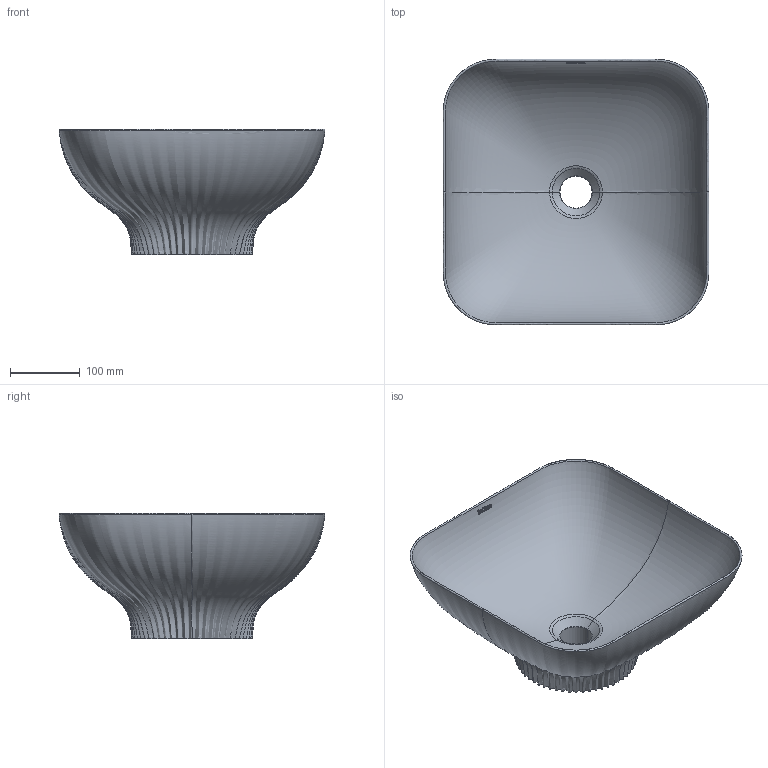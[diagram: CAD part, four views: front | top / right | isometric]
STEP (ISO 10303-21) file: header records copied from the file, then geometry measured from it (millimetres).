
FILE_DESCRIPTION(/* description */ (''),/* implementation_level */ '2;1');
FILE_NAME(/* name */ '6054_Cervino_Cuadrado',/* time_stamp */ '2024-10-15T14:54:28+02:00',/* author */ (''),/* organization */ (''),/* preprocessor_version */ 'ST-DEVELOPER v19.2',/* originating_system */ 'Rhino 8.11',/* authorisation */ '');
FILE_SCHEMA (('CONFIG_CONTROL_DESIGN'));
Products named in the file (1): Document
Bounding box: 380 x 380 x 180.17 mm (x, y, z)
Volume: 2387548.2 mm3; surface area: 483007.9 mm2
Topology: 7 solids, 7 shells, 98 faces, 221 edges, 136 vertices
Faces by surface type: bspline 61, plane 35, cylinder 2
Entity records: 975408 total; most frequent: CARTESIAN_POINT 973747, ORIENTED_EDGE 442, EDGE_CURVE 221, B_SPLINE_CURVE_WITH_KNOTS 161, VERTEX_POINT 136, EDGE_LOOP 105, DIRECTION 99, ADVANCED_FACE 98
